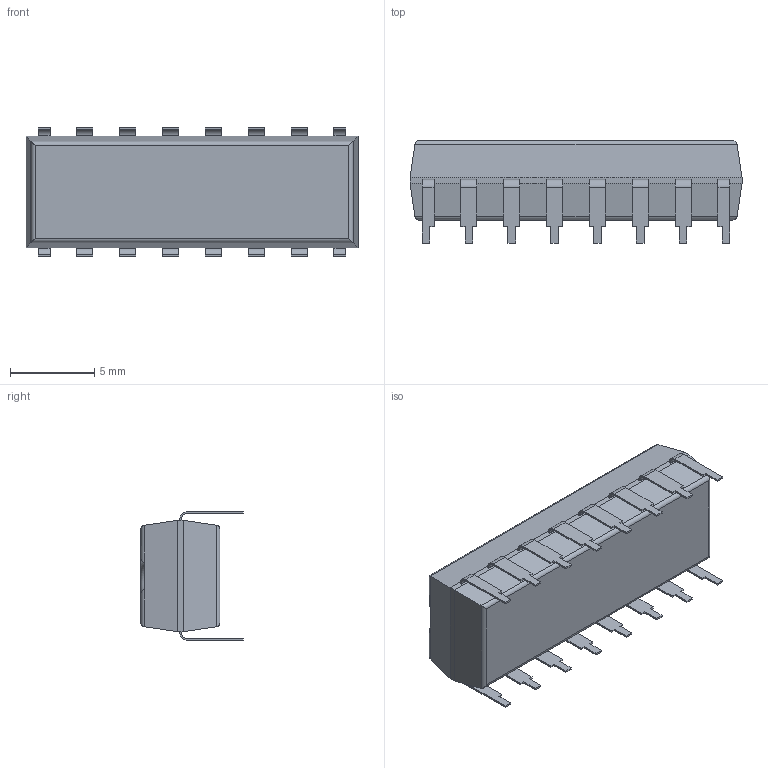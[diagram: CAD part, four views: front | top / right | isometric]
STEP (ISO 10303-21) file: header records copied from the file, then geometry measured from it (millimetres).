
FILE_DESCRIPTION (( 'STEP AP214' ), '1' );
FILE_NAME ( 'DIP762W45P254L1969H508Q16P.STEP', '2014-04-11T12:31:22', ( '' ), ( '' ), 'FPX Expert 2013', 'PCB Libraries', '' );
FILE_SCHEMA (( 'AUTOMOTIVE_DESIGN' ));
Length unit declared in the file: millimetre
Products named in the file (1): DIP762W45P254L1969H508Q16P
Bounding box: 19.68 x 6.08 x 7.62 mm (x, y, z)
Volume: 577.7 mm3; surface area: 579.7 mm2
Topology: 17 solids, 17 shells, 243 faces, 611 edges, 402 vertices
Faces by surface type: plane 199, cylinder 43, torus 1
Entity records: 8056 total; most frequent: CARTESIAN_POINT 1299, ORIENTED_EDGE 1222, DIRECTION 1153, EDGE_CURVE 611, VECTOR 529, LINE 529, VERTEX_POINT 402, AXIS2_PLACEMENT_3D 312
